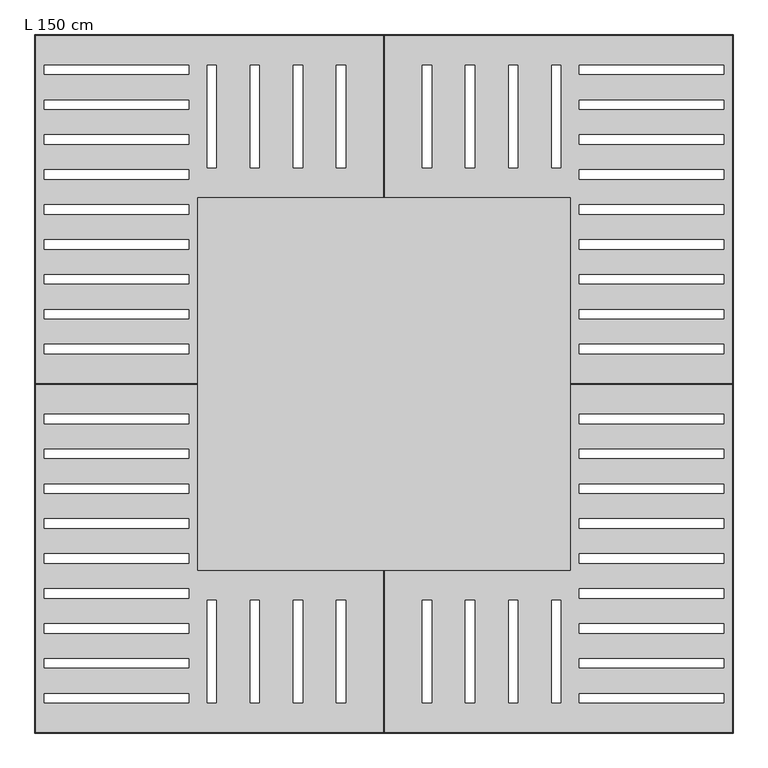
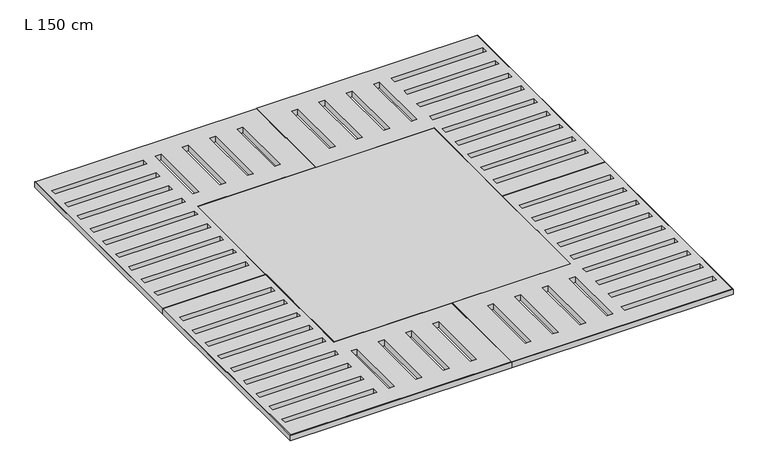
"""IFC4 building model written with IfcOpenShell, lengths in millimetres: geographic element geometry, Grille d'arbre - Carrée : L 150 cm."""

from ifc_helpers import new_model, si_unit, frame, origin, place, context, project, spatial, polyline, outline, extrude, faceted_brep, source, transform, mapped, element, save


def l_150_cm_50c86c4c(model_context):
    return source(origin(), model_context, "Body", "SolidModel", [
        faceted_brep([(-750.0, 0.0, -20.0), (-400.0, 0.0, -20.0), (-400.0, -400.0, -20.0), (0.0, -400.0, -20.0), (0.0, -750.0, -20.0), (-750.0, -750.0, -20.0), (-420.0, -685.0, -20.0), (-420.0, -665.0, -20.0), (-730.0, -665.0, -20.0), (-730.0, -685.0, -20.0), (-420.0, -610.0, -20.0), (-420.0, -590.0, -20.0), (-730.0, -590.0, -20.0), (-730.0, -610.0, -20.0), (-420.0, -535.0, -20.0), (-420.0, -515.0, -20.0), (-730.0, -515.0, -20.0), (-730.0, -535.0, -20.0), (-420.0, -460.0, -20.0), (-420.0, -440.0, -20.0), (-730.0, -440.0, -20.0), (-730.0, -460.0, -20.0), (-420.0, -385.0, -20.0), (-420.0, -365.0, -20.0), (-730.0, -365.0, -20.0), (-730.0, -385.0, -20.0), (-420.0, -310.0, -20.0), (-420.0, -290.0, -20.0), (-730.0, -290.0, -20.0), (-730.0, -310.0, -20.0), (-420.0, -235.0, -20.0), (-420.0, -215.0, -20.0), (-730.0, -215.0, -20.0), (-730.0, -235.0, -20.0), (-420.0, -160.0, -20.0), (-420.0, -140.0, -20.0), (-730.0, -140.0, -20.0), (-730.0, -160.0, -20.0), (-420.0, -85.0, -20.0), (-420.0, -65.0, -20.0), (-730.0, -65.0, -20.0), (-730.0, -85.0, -20.0), (-360.0, -685.0, -20.0), (-360.0, -465.0, -20.0), (-380.0, -465.0, -20.0), (-380.0, -685.0, -20.0), (-267.5, -685.0, -20.0), (-267.5, -465.0, -20.0), (-287.5, -465.0, -20.0), (-287.5, -685.0, -20.0), (-175.0, -685.0, -20.0), (-175.0, -465.0, -20.0), (-195.0, -465.0, -20.0), (-195.0, -685.0, -20.0), (-82.5, -685.0, -20.0), (-82.5, -465.0, -20.0), (-102.5, -465.0, -20.0), (-102.5, -685.0, -20.0), (-401.4813438, -1.4813438, 0.0), (-748.5186562, -1.4813438, 0.0), (-748.5186562, -748.5186562, 0.0), (-1.4813438, -748.5186562, 0.0), (-1.4813438, -401.4813438, 0.0), (-401.4813438, -401.4813438, 0.0), (-730.0, -685.0, 0.0), (-730.0, -665.0, 0.0), (-420.0, -665.0, 0.0), (-420.0, -685.0, 0.0), (-730.0, -610.0, 0.0), (-730.0, -590.0, 0.0), (-420.0, -590.0, 0.0), (-420.0, -610.0, 0.0), (-730.0, -535.0, 0.0), (-730.0, -515.0, 0.0), (-420.0, -515.0, 0.0), (-420.0, -535.0, 0.0), (-730.0, -460.0, 0.0), (-730.0, -440.0, 0.0), (-420.0, -440.0, 0.0), (-420.0, -460.0, 0.0), (-730.0, -385.0, 0.0), (-730.0, -365.0, 0.0), (-420.0, -365.0, 0.0), (-420.0, -385.0, 0.0), (-730.0, -310.0, 0.0), (-730.0, -290.0, 0.0), (-420.0, -290.0, 0.0), (-420.0, -310.0, 0.0), (-730.0, -235.0, 0.0), (-730.0, -215.0, 0.0), (-420.0, -215.0, 0.0), (-420.0, -235.0, 0.0), (-730.0, -160.0, 0.0), (-730.0, -140.0, 0.0), (-420.0, -140.0, 0.0), (-420.0, -160.0, 0.0), (-730.0, -85.0, 0.0), (-730.0, -65.0, 0.0), (-420.0, -65.0, 0.0), (-420.0, -85.0, 0.0), (-380.0, -685.0, 0.0), (-380.0, -465.0, 0.0), (-360.0, -465.0, 0.0), (-360.0, -685.0, 0.0), (-287.5, -685.0, 0.0), (-287.5, -465.0, 0.0), (-267.5, -465.0, 0.0), (-267.5, -685.0, 0.0), (-195.0, -685.0, 0.0), (-195.0, -465.0, 0.0), (-175.0, -465.0, 0.0), (-175.0, -685.0, 0.0), (-102.5, -685.0, 0.0), (-102.5, -465.0, 0.0), (-82.5, -465.0, 0.0), (-82.5, -685.0, 0.0), (-750.0, 0.0, -1.4813438), (-400.0, 0.0, -1.4813438), (0.0, -400.0, -1.4813438), (0.0, -750.0, -1.4813438), (-750.0, -750.0, -1.4813438), (-400.0, -400.0, -1.4813438)], [[[0, 1, 2, 3, 4, 5], [6, 7, 8, 9], [10, 11, 12, 13], [14, 15, 16, 17], [18, 19, 20, 21], [22, 23, 24, 25], [26, 27, 28, 29], [30, 31, 32, 33], [34, 35, 36, 37], [38, 39, 40, 41], [42, 43, 44, 45], [46, 47, 48, 49], [50, 51, 52, 53], [54, 55, 56, 57]], [[58, 59, 60, 61, 62, 63], [64, 65, 66, 67], [68, 69, 70, 71], [72, 73, 74, 75], [76, 77, 78, 79], [80, 81, 82, 83], [84, 85, 86, 87], [88, 89, 90, 91], [92, 93, 94, 95], [96, 97, 98, 99], [100, 101, 102, 103], [104, 105, 106, 107], [108, 109, 110, 111], [112, 113, 114, 115]], [[0, 116, 117, 1]], [[3, 118, 119, 4]], [[4, 119, 120, 5]], [[5, 120, 116, 0]], [[1, 117, 121, 2]], [[2, 121, 118, 3]], [[64, 67, 6, 9]], [[9, 8, 65, 64]], [[8, 7, 66, 65]], [[67, 66, 7, 6]], [[68, 71, 10, 13]], [[13, 12, 69, 68]], [[12, 11, 70, 69]], [[71, 70, 11, 10]], [[72, 75, 14, 17]], [[17, 16, 73, 72]], [[16, 15, 74, 73]], [[75, 74, 15, 14]], [[76, 79, 18, 21]], [[21, 20, 77, 76]], [[20, 19, 78, 77]], [[79, 78, 19, 18]], [[80, 83, 22, 25]], [[25, 24, 81, 80]], [[24, 23, 82, 81]], [[83, 82, 23, 22]], [[84, 87, 26, 29]], [[29, 28, 85, 84]], [[28, 27, 86, 85]], [[87, 86, 27, 26]], [[88, 91, 30, 33]], [[33, 32, 89, 88]], [[32, 31, 90, 89]], [[91, 90, 31, 30]], [[92, 95, 34, 37]], [[37, 36, 93, 92]], [[36, 35, 94, 93]], [[95, 94, 35, 34]], [[96, 99, 38, 41]], [[41, 40, 97, 96]], [[40, 39, 98, 97]], [[99, 98, 39, 38]], [[100, 103, 42, 45]], [[45, 44, 101, 100]], [[44, 43, 102, 101]], [[103, 102, 43, 42]], [[104, 107, 46, 49]], [[49, 48, 105, 104]], [[48, 47, 106, 105]], [[107, 106, 47, 46]], [[108, 111, 50, 53]], [[53, 52, 109, 108]], [[52, 51, 110, 109]], [[111, 110, 51, 50]], [[112, 115, 54, 57]], [[57, 56, 113, 112]], [[56, 55, 114, 113]], [[115, 114, 55, 54]], [[121, 117, 58, 63]], [[63, 62, 118, 121]], [[62, 61, 119, 118]], [[61, 60, 120, 119]], [[60, 59, 116, 120]], [[117, 116, 59, 58]]]),
        faceted_brep([(750.0, 0.0, -20.0), (750.0, -750.0, -20.0), (0.0, -750.0, -20.0), (0.0, -400.0, -20.0), (400.0, -400.0, -20.0), (400.0, 0.0, -20.0), (420.0, -685.0, -20.0), (730.0, -685.0, -20.0), (730.0, -665.0, -20.0), (420.0, -665.0, -20.0), (420.0, -610.0, -20.0), (730.0, -610.0, -20.0), (730.0, -590.0, -20.0), (420.0, -590.0, -20.0), (420.0, -535.0, -20.0), (730.0, -535.0, -20.0), (730.0, -515.0, -20.0), (420.0, -515.0, -20.0), (420.0, -460.0, -20.0), (730.0, -460.0, -20.0), (730.0, -440.0, -20.0), (420.0, -440.0, -20.0), (420.0, -385.0, -20.0), (730.0, -385.0, -20.0), (730.0, -365.0, -20.0), (420.0, -365.0, -20.0), (420.0, -310.0, -20.0), (730.0, -310.0, -20.0), (730.0, -290.0, -20.0), (420.0, -290.0, -20.0), (420.0, -235.0, -20.0), (730.0, -235.0, -20.0), (730.0, -215.0, -20.0), (420.0, -215.0, -20.0), (420.0, -160.0, -20.0), (730.0, -160.0, -20.0), (730.0, -140.0, -20.0), (420.0, -140.0, -20.0), (420.0, -85.0, -20.0), (730.0, -85.0, -20.0), (730.0, -65.0, -20.0), (420.0, -65.0, -20.0), (360.0, -685.0, -20.0), (380.0, -685.0, -20.0), (380.0, -465.0, -20.0), (360.0, -465.0, -20.0), (267.5, -685.0, -20.0), (287.5, -685.0, -20.0), (287.5, -465.0, -20.0), (267.5, -465.0, -20.0), (175.0, -685.0, -20.0), (195.0, -685.0, -20.0), (195.0, -465.0, -20.0), (175.0, -465.0, -20.0), (82.5, -685.0, -20.0), (102.5, -685.0, -20.0), (102.5, -465.0, -20.0), (82.5, -465.0, -20.0), (401.4813438, -1.4813438, 0.0), (401.4813438, -401.4813438, 0.0), (1.4813438, -401.4813438, 0.0), (1.4813438, -748.5186562, 0.0), (748.5186562, -748.5186562, 0.0), (748.5186562, -1.4813438, 0.0), (730.0, -685.0, 0.0), (420.0, -685.0, 0.0), (420.0, -665.0, 0.0), (730.0, -665.0, 0.0), (730.0, -610.0, 0.0), (420.0, -610.0, 0.0), (420.0, -590.0, 0.0), (730.0, -590.0, 0.0), (730.0, -535.0, 0.0), (420.0, -535.0, 0.0), (420.0, -515.0, 0.0), (730.0, -515.0, 0.0), (730.0, -460.0, 0.0), (420.0, -460.0, 0.0), (420.0, -440.0, 0.0), (730.0, -440.0, 0.0), (730.0, -385.0, 0.0), (420.0, -385.0, 0.0), (420.0, -365.0, 0.0), (730.0, -365.0, 0.0), (730.0, -310.0, 0.0), (420.0, -310.0, 0.0), (420.0, -290.0, 0.0), (730.0, -290.0, 0.0), (730.0, -235.0, 0.0), (420.0, -235.0, 0.0), (420.0, -215.0, 0.0), (730.0, -215.0, 0.0), (730.0, -160.0, 0.0), (420.0, -160.0, 0.0), (420.0, -140.0, 0.0), (730.0, -140.0, 0.0), (730.0, -85.0, 0.0), (420.0, -85.0, 0.0), (420.0, -65.0, 0.0), (730.0, -65.0, 0.0), (380.0, -685.0, 0.0), (360.0, -685.0, 0.0), (360.0, -465.0, 0.0), (380.0, -465.0, 0.0), (287.5, -685.0, 0.0), (267.5, -685.0, 0.0), (267.5, -465.0, 0.0), (287.5, -465.0, 0.0), (195.0, -685.0, 0.0), (175.0, -685.0, 0.0), (175.0, -465.0, 0.0), (195.0, -465.0, 0.0), (102.5, -685.0, 0.0), (82.5, -685.0, 0.0), (82.5, -465.0, 0.0), (102.5, -465.0, 0.0), (400.0, 0.0, -1.4813438), (750.0, 0.0, -1.4813438), (0.0, -750.0, -1.4813438), (0.0, -400.0, -1.4813438), (750.0, -750.0, -1.4813438), (400.0, -400.0, -1.4813438)], [[[0, 1, 2, 3, 4, 5], [6, 7, 8, 9], [10, 11, 12, 13], [14, 15, 16, 17], [18, 19, 20, 21], [22, 23, 24, 25], [26, 27, 28, 29], [30, 31, 32, 33], [34, 35, 36, 37], [38, 39, 40, 41], [42, 43, 44, 45], [46, 47, 48, 49], [50, 51, 52, 53], [54, 55, 56, 57]], [[58, 59, 60, 61, 62, 63], [64, 65, 66, 67], [68, 69, 70, 71], [72, 73, 74, 75], [76, 77, 78, 79], [80, 81, 82, 83], [84, 85, 86, 87], [88, 89, 90, 91], [92, 93, 94, 95], [96, 97, 98, 99], [100, 101, 102, 103], [104, 105, 106, 107], [108, 109, 110, 111], [112, 113, 114, 115]], [[0, 5, 116, 117]], [[3, 2, 118, 119]], [[2, 1, 120, 118]], [[1, 0, 117, 120]], [[5, 4, 121, 116]], [[4, 3, 119, 121]], [[64, 7, 6, 65]], [[7, 64, 67, 8]], [[8, 67, 66, 9]], [[65, 6, 9, 66]], [[68, 11, 10, 69]], [[11, 68, 71, 12]], [[12, 71, 70, 13]], [[69, 10, 13, 70]], [[72, 15, 14, 73]], [[15, 72, 75, 16]], [[16, 75, 74, 17]], [[73, 14, 17, 74]], [[76, 19, 18, 77]], [[19, 76, 79, 20]], [[20, 79, 78, 21]], [[77, 18, 21, 78]], [[80, 23, 22, 81]], [[23, 80, 83, 24]], [[24, 83, 82, 25]], [[81, 22, 25, 82]], [[84, 27, 26, 85]], [[27, 84, 87, 28]], [[28, 87, 86, 29]], [[85, 26, 29, 86]], [[88, 31, 30, 89]], [[31, 88, 91, 32]], [[32, 91, 90, 33]], [[89, 30, 33, 90]], [[92, 35, 34, 93]], [[35, 92, 95, 36]], [[36, 95, 94, 37]], [[93, 34, 37, 94]], [[96, 39, 38, 97]], [[39, 96, 99, 40]], [[40, 99, 98, 41]], [[97, 38, 41, 98]], [[100, 43, 42, 101]], [[43, 100, 103, 44]], [[44, 103, 102, 45]], [[101, 42, 45, 102]], [[104, 47, 46, 105]], [[47, 104, 107, 48]], [[48, 107, 106, 49]], [[105, 46, 49, 106]], [[108, 51, 50, 109]], [[51, 108, 111, 52]], [[52, 111, 110, 53]], [[109, 50, 53, 110]], [[112, 55, 54, 113]], [[55, 112, 115, 56]], [[56, 115, 114, 57]], [[113, 54, 57, 114]], [[121, 59, 58, 116]], [[59, 121, 119, 60]], [[60, 119, 118, 61]], [[61, 118, 120, 62]], [[62, 120, 117, 63]], [[116, 58, 63, 117]]]),
        faceted_brep([(750.0, 0.0, -20.0), (400.0, 0.0, -20.0), (400.0, 400.0, -20.0), (0.0, 400.0, -20.0), (0.0, 750.0, -20.0), (750.0, 750.0, -20.0), (420.0, 685.0, -20.0), (420.0, 665.0, -20.0), (730.0, 665.0, -20.0), (730.0, 685.0, -20.0), (420.0, 610.0, -20.0), (420.0, 590.0, -20.0), (730.0, 590.0, -20.0), (730.0, 610.0, -20.0), (420.0, 535.0, -20.0), (420.0, 515.0, -20.0), (730.0, 515.0, -20.0), (730.0, 535.0, -20.0), (420.0, 460.0, -20.0), (420.0, 440.0, -20.0), (730.0, 440.0, -20.0), (730.0, 460.0, -20.0), (420.0, 385.0, -20.0), (420.0, 365.0, -20.0), (730.0, 365.0, -20.0), (730.0, 385.0, -20.0), (420.0, 310.0, -20.0), (420.0, 290.0, -20.0), (730.0, 290.0, -20.0), (730.0, 310.0, -20.0), (420.0, 235.0, -20.0), (420.0, 215.0, -20.0), (730.0, 215.0, -20.0), (730.0, 235.0, -20.0), (420.0, 160.0, -20.0), (420.0, 140.0, -20.0), (730.0, 140.0, -20.0), (730.0, 160.0, -20.0), (420.0, 85.0, -20.0), (420.0, 65.0, -20.0), (730.0, 65.0, -20.0), (730.0, 85.0, -20.0), (360.0, 685.0, -20.0), (360.0, 465.0, -20.0), (380.0, 465.0, -20.0), (380.0, 685.0, -20.0), (267.5, 685.0, -20.0), (267.5, 465.0, -20.0), (287.5, 465.0, -20.0), (287.5, 685.0, -20.0), (175.0, 685.0, -20.0), (175.0, 465.0, -20.0), (195.0, 465.0, -20.0), (195.0, 685.0, -20.0), (82.5, 685.0, -20.0), (82.5, 465.0, -20.0), (102.5, 465.0, -20.0), (102.5, 685.0, -20.0), (401.4813438, 1.4813438, 0.0), (748.5186562, 1.4813438, 0.0), (748.5186562, 748.5186562, 0.0), (1.4813438, 748.5186562, 0.0), (1.4813438, 401.4813438, 0.0), (401.4813438, 401.4813438, 0.0), (730.0, 685.0, 0.0), (730.0, 665.0, 0.0), (420.0, 665.0, 0.0), (420.0, 685.0, 0.0), (730.0, 610.0, 0.0), (730.0, 590.0, 0.0), (420.0, 590.0, 0.0), (420.0, 610.0, 0.0), (730.0, 535.0, 0.0), (730.0, 515.0, 0.0), (420.0, 515.0, 0.0), (420.0, 535.0, 0.0), (730.0, 460.0, 0.0), (730.0, 440.0, 0.0), (420.0, 440.0, 0.0), (420.0, 460.0, 0.0), (730.0, 385.0, 0.0), (730.0, 365.0, 0.0), (420.0, 365.0, 0.0), (420.0, 385.0, 0.0), (730.0, 310.0, 0.0), (730.0, 290.0, 0.0), (420.0, 290.0, 0.0), (420.0, 310.0, 0.0), (730.0, 235.0, 0.0), (730.0, 215.0, 0.0), (420.0, 215.0, 0.0), (420.0, 235.0, 0.0), (730.0, 160.0, 0.0), (730.0, 140.0, 0.0), (420.0, 140.0, 0.0), (420.0, 160.0, 0.0), (730.0, 85.0, 0.0), (730.0, 65.0, 0.0), (420.0, 65.0, 0.0), (420.0, 85.0, 0.0), (380.0, 685.0, 0.0), (380.0, 465.0, 0.0), (360.0, 465.0, 0.0), (360.0, 685.0, 0.0), (287.5, 685.0, 0.0), (287.5, 465.0, 0.0), (267.5, 465.0, 0.0), (267.5, 685.0, 0.0), (195.0, 685.0, 0.0), (195.0, 465.0, 0.0), (175.0, 465.0, 0.0), (175.0, 685.0, 0.0), (102.5, 685.0, 0.0), (102.5, 465.0, 0.0), (82.5, 465.0, 0.0), (82.5, 685.0, 0.0), (750.0, 0.0, -1.4813438), (400.0, 0.0, -1.4813438), (0.0, 400.0, -1.4813438), (0.0, 750.0, -1.4813438), (750.0, 750.0, -1.4813438), (400.0, 400.0, -1.4813438)], [[[0, 1, 2, 3, 4, 5], [6, 7, 8, 9], [10, 11, 12, 13], [14, 15, 16, 17], [18, 19, 20, 21], [22, 23, 24, 25], [26, 27, 28, 29], [30, 31, 32, 33], [34, 35, 36, 37], [38, 39, 40, 41], [42, 43, 44, 45], [46, 47, 48, 49], [50, 51, 52, 53], [54, 55, 56, 57]], [[58, 59, 60, 61, 62, 63], [64, 65, 66, 67], [68, 69, 70, 71], [72, 73, 74, 75], [76, 77, 78, 79], [80, 81, 82, 83], [84, 85, 86, 87], [88, 89, 90, 91], [92, 93, 94, 95], [96, 97, 98, 99], [100, 101, 102, 103], [104, 105, 106, 107], [108, 109, 110, 111], [112, 113, 114, 115]], [[0, 116, 117, 1]], [[3, 118, 119, 4]], [[4, 119, 120, 5]], [[5, 120, 116, 0]], [[1, 117, 121, 2]], [[2, 121, 118, 3]], [[64, 67, 6, 9]], [[9, 8, 65, 64]], [[8, 7, 66, 65]], [[67, 66, 7, 6]], [[68, 71, 10, 13]], [[13, 12, 69, 68]], [[12, 11, 70, 69]], [[71, 70, 11, 10]], [[72, 75, 14, 17]], [[17, 16, 73, 72]], [[16, 15, 74, 73]], [[75, 74, 15, 14]], [[76, 79, 18, 21]], [[21, 20, 77, 76]], [[20, 19, 78, 77]], [[79, 78, 19, 18]], [[80, 83, 22, 25]], [[25, 24, 81, 80]], [[24, 23, 82, 81]], [[83, 82, 23, 22]], [[84, 87, 26, 29]], [[29, 28, 85, 84]], [[28, 27, 86, 85]], [[87, 86, 27, 26]], [[88, 91, 30, 33]], [[33, 32, 89, 88]], [[32, 31, 90, 89]], [[91, 90, 31, 30]], [[92, 95, 34, 37]], [[37, 36, 93, 92]], [[36, 35, 94, 93]], [[95, 94, 35, 34]], [[96, 99, 38, 41]], [[41, 40, 97, 96]], [[40, 39, 98, 97]], [[99, 98, 39, 38]], [[100, 103, 42, 45]], [[45, 44, 101, 100]], [[44, 43, 102, 101]], [[103, 102, 43, 42]], [[104, 107, 46, 49]], [[49, 48, 105, 104]], [[48, 47, 106, 105]], [[107, 106, 47, 46]], [[108, 111, 50, 53]], [[53, 52, 109, 108]], [[52, 51, 110, 109]], [[111, 110, 51, 50]], [[112, 115, 54, 57]], [[57, 56, 113, 112]], [[56, 55, 114, 113]], [[115, 114, 55, 54]], [[121, 117, 58, 63]], [[63, 62, 118, 121]], [[62, 61, 119, 118]], [[61, 60, 120, 119]], [[60, 59, 116, 120]], [[117, 116, 59, 58]]]),
        faceted_brep([(-750.0, 0.0, -20.0), (-750.0, 750.0, -20.0), (0.0, 750.0, -20.0), (0.0, 400.0, -20.0), (-400.0, 400.0, -20.0), (-400.0, 0.0, -20.0), (-420.0, 685.0, -20.0), (-730.0, 685.0, -20.0), (-730.0, 665.0, -20.0), (-420.0, 665.0, -20.0), (-420.0, 610.0, -20.0), (-730.0, 610.0, -20.0), (-730.0, 590.0, -20.0), (-420.0, 590.0, -20.0), (-420.0, 535.0, -20.0), (-730.0, 535.0, -20.0), (-730.0, 515.0, -20.0), (-420.0, 515.0, -20.0), (-420.0, 460.0, -20.0), (-730.0, 460.0, -20.0), (-730.0, 440.0, -20.0), (-420.0, 440.0, -20.0), (-420.0, 385.0, -20.0), (-730.0, 385.0, -20.0), (-730.0, 365.0, -20.0), (-420.0, 365.0, -20.0), (-420.0, 310.0, -20.0), (-730.0, 310.0, -20.0), (-730.0, 290.0, -20.0), (-420.0, 290.0, -20.0), (-420.0, 235.0, -20.0), (-730.0, 235.0, -20.0), (-730.0, 215.0, -20.0), (-420.0, 215.0, -20.0), (-420.0, 160.0, -20.0), (-730.0, 160.0, -20.0), (-730.0, 140.0, -20.0), (-420.0, 140.0, -20.0), (-420.0, 85.0, -20.0), (-730.0, 85.0, -20.0), (-730.0, 65.0, -20.0), (-420.0, 65.0, -20.0), (-360.0, 685.0, -20.0), (-380.0, 685.0, -20.0), (-380.0, 465.0, -20.0), (-360.0, 465.0, -20.0), (-267.5, 685.0, -20.0), (-287.5, 685.0, -20.0), (-287.5, 465.0, -20.0), (-267.5, 465.0, -20.0), (-175.0, 685.0, -20.0), (-195.0, 685.0, -20.0), (-195.0, 465.0, -20.0), (-175.0, 465.0, -20.0), (-82.5, 685.0, -20.0), (-102.5, 685.0, -20.0), (-102.5, 465.0, -20.0), (-82.5, 465.0, -20.0), (-401.4813438, 1.4813438, 0.0), (-401.4813438, 401.4813438, 0.0), (-1.4813438, 401.4813438, 0.0), (-1.4813438, 748.5186562, 0.0), (-748.5186562, 748.5186562, 0.0), (-748.5186562, 1.4813438, 0.0), (-730.0, 685.0, 0.0), (-420.0, 685.0, 0.0), (-420.0, 665.0, 0.0), (-730.0, 665.0, 0.0), (-730.0, 610.0, 0.0), (-420.0, 610.0, 0.0), (-420.0, 590.0, 0.0), (-730.0, 590.0, 0.0), (-730.0, 535.0, 0.0), (-420.0, 535.0, 0.0), (-420.0, 515.0, 0.0), (-730.0, 515.0, 0.0), (-730.0, 460.0, 0.0), (-420.0, 460.0, 0.0), (-420.0, 440.0, 0.0), (-730.0, 440.0, 0.0), (-730.0, 385.0, 0.0), (-420.0, 385.0, 0.0), (-420.0, 365.0, 0.0), (-730.0, 365.0, 0.0), (-730.0, 310.0, 0.0), (-420.0, 310.0, 0.0), (-420.0, 290.0, 0.0), (-730.0, 290.0, 0.0), (-730.0, 235.0, 0.0), (-420.0, 235.0, 0.0), (-420.0, 215.0, 0.0), (-730.0, 215.0, 0.0), (-730.0, 160.0, 0.0), (-420.0, 160.0, 0.0), (-420.0, 140.0, 0.0), (-730.0, 140.0, 0.0), (-730.0, 85.0, 0.0), (-420.0, 85.0, 0.0), (-420.0, 65.0, 0.0), (-730.0, 65.0, 0.0), (-380.0, 685.0, 0.0), (-360.0, 685.0, 0.0), (-360.0, 465.0, 0.0), (-380.0, 465.0, 0.0), (-287.5, 685.0, 0.0), (-267.5, 685.0, 0.0), (-267.5, 465.0, 0.0), (-287.5, 465.0, 0.0), (-195.0, 685.0, 0.0), (-175.0, 685.0, 0.0), (-175.0, 465.0, 0.0), (-195.0, 465.0, 0.0), (-102.5, 685.0, 0.0), (-82.5, 685.0, 0.0), (-82.5, 465.0, 0.0), (-102.5, 465.0, 0.0), (-400.0, 0.0, -1.4813438), (-750.0, 0.0, -1.4813438), (0.0, 750.0, -1.4813438), (0.0, 400.0, -1.4813438), (-750.0, 750.0, -1.4813438), (-400.0, 400.0, -1.4813438)], [[[0, 1, 2, 3, 4, 5], [6, 7, 8, 9], [10, 11, 12, 13], [14, 15, 16, 17], [18, 19, 20, 21], [22, 23, 24, 25], [26, 27, 28, 29], [30, 31, 32, 33], [34, 35, 36, 37], [38, 39, 40, 41], [42, 43, 44, 45], [46, 47, 48, 49], [50, 51, 52, 53], [54, 55, 56, 57]], [[58, 59, 60, 61, 62, 63], [64, 65, 66, 67], [68, 69, 70, 71], [72, 73, 74, 75], [76, 77, 78, 79], [80, 81, 82, 83], [84, 85, 86, 87], [88, 89, 90, 91], [92, 93, 94, 95], [96, 97, 98, 99], [100, 101, 102, 103], [104, 105, 106, 107], [108, 109, 110, 111], [112, 113, 114, 115]], [[0, 5, 116, 117]], [[3, 2, 118, 119]], [[2, 1, 120, 118]], [[1, 0, 117, 120]], [[5, 4, 121, 116]], [[4, 3, 119, 121]], [[64, 7, 6, 65]], [[7, 64, 67, 8]], [[8, 67, 66, 9]], [[65, 6, 9, 66]], [[68, 11, 10, 69]], [[11, 68, 71, 12]], [[12, 71, 70, 13]], [[69, 10, 13, 70]], [[72, 15, 14, 73]], [[15, 72, 75, 16]], [[16, 75, 74, 17]], [[73, 14, 17, 74]], [[76, 19, 18, 77]], [[19, 76, 79, 20]], [[20, 79, 78, 21]], [[77, 18, 21, 78]], [[80, 23, 22, 81]], [[23, 80, 83, 24]], [[24, 83, 82, 25]], [[81, 22, 25, 82]], [[84, 27, 26, 85]], [[27, 84, 87, 28]], [[28, 87, 86, 29]], [[85, 26, 29, 86]], [[88, 31, 30, 89]], [[31, 88, 91, 32]], [[32, 91, 90, 33]], [[89, 30, 33, 90]], [[92, 35, 34, 93]], [[35, 92, 95, 36]], [[36, 95, 94, 37]], [[93, 34, 37, 94]], [[96, 39, 38, 97]], [[39, 96, 99, 40]], [[40, 99, 98, 41]], [[97, 38, 41, 98]], [[100, 43, 42, 101]], [[43, 100, 103, 44]], [[44, 103, 102, 45]], [[101, 42, 45, 102]], [[104, 47, 46, 105]], [[47, 104, 107, 48]], [[48, 107, 106, 49]], [[105, 46, 49, 106]], [[108, 51, 50, 109]], [[51, 108, 111, 52]], [[52, 111, 110, 53]], [[109, 50, 53, 110]], [[112, 55, 54, 113]], [[55, 112, 115, 56]], [[56, 115, 114, 57]], [[113, 54, 57, 114]], [[121, 59, 58, 116]], [[59, 121, 119, 60]], [[60, 119, 118, 61]], [[61, 118, 120, 62]], [[62, 120, 117, 63]], [[116, 58, 63, 117]]]),
        extrude(outline(polyline([(400.0, 400.0), (400.0, -400.0), (-400.0, -400.0), (-400.0, 400.0), (400.0, 400.0)])), frame((0.0, 0.0, -20.0), z_axis=(0.0, 0.0, 1.0), x_axis=(1.0, 0.0, 0.0)), (0.0, 0.0, 1.0), 20.0),
    ])


if __name__ == "__main__":
    model = new_model("IFC4")
    model_context = context("Model", 3, world=origin())
    ifc_project = project(units=[si_unit("LENGTHUNIT", "METRE", prefix="MILLI")], contexts=[model_context])
    site = spatial("IfcSite", under=ifc_project)
    building = spatial("IfcBuilding", under=site)
    placement = place(None, origin())
    l_150_cm_shape = l_150_cm_50c86c4c(model_context)
    element("IfcGeographicElement", 1, ObjectType="Grille d'arbre - Carrée : L 150 cm", at=placement, inside=building, context=model_context, shape_type="MappedRepresentation", body=[
        mapped(l_150_cm_shape, transform((0.0, 0.0, 0.0), x_axis=(1.0, 0.0, 0.0), y_axis=(0.0, 1.0, 0.0), z_axis=(0.0, 0.0, 1.0))),
    ])
    save(model, "model.ifc")
